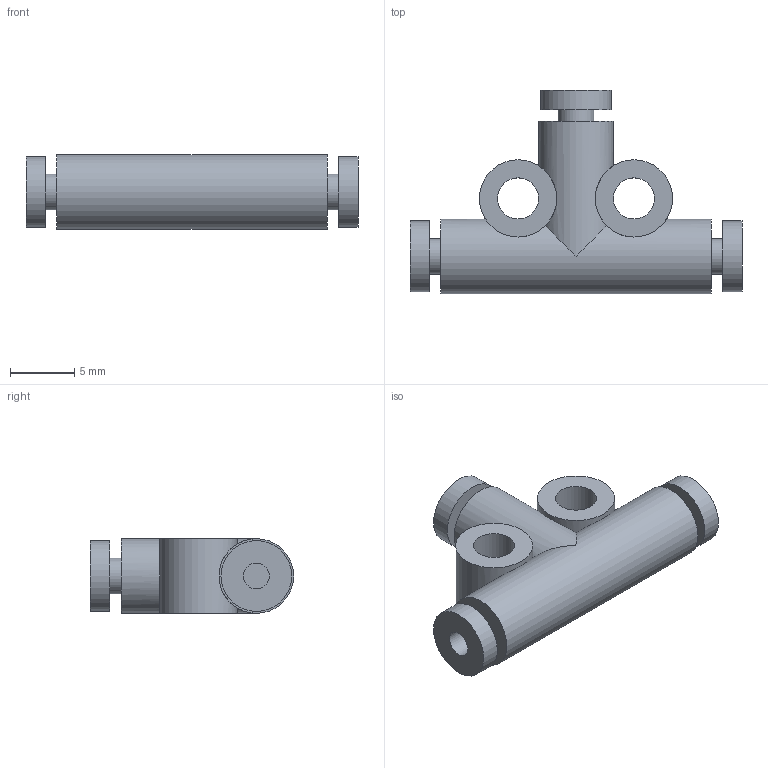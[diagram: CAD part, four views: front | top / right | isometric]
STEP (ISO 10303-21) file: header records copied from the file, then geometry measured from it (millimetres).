
FILE_DESCRIPTION(/* description */ ('STEP AP214'),/* implementation_level */ '2;1');
FILE_NAME(/* name */ 'KQ2T02-00A',/* time_stamp */ '2023-03-09T07:36:05+01:00',/* author */ ('License CC BY-ND 4.0'),/* organization */ ('CADENAS'),/* preprocessor_version */ 'ST-DEVELOPER v18.102',/* originating_system */ 'PARTsolutions',/* authorisation */ ' ');
FILE_SCHEMA (('AUTOMOTIVE_DESIGN {1 0 10303 214 3 1 1}'));
Length unit declared in the file: millimetre
Products named in the file (1): KQ2T02-00A
Bounding box: 25.8 x 15.8 x 5.8 mm (x, y, z)
Volume: 951.2 mm3; surface area: 1254.3 mm2
Topology: 1 solids, 1 shells, 31 faces, 56 edges, 37 vertices
Faces by surface type: plane 16, cylinder 15
Full cylindrical faces by diameter (mm): 2 x3, 2.78 x3, 3.2 x2, 5.5 x3, 5.8 x2, 6 x2
Entity records: 763 total; most frequent: CARTESIAN_POINT 165, DIRECTION 130, ORIENTED_EDGE 74, AXIS2_PLACEMENT_3D 65, EDGE_LOOP 62, FACE_BOUND 62, EDGE_CURVE 37, VERTEX_POINT 35
